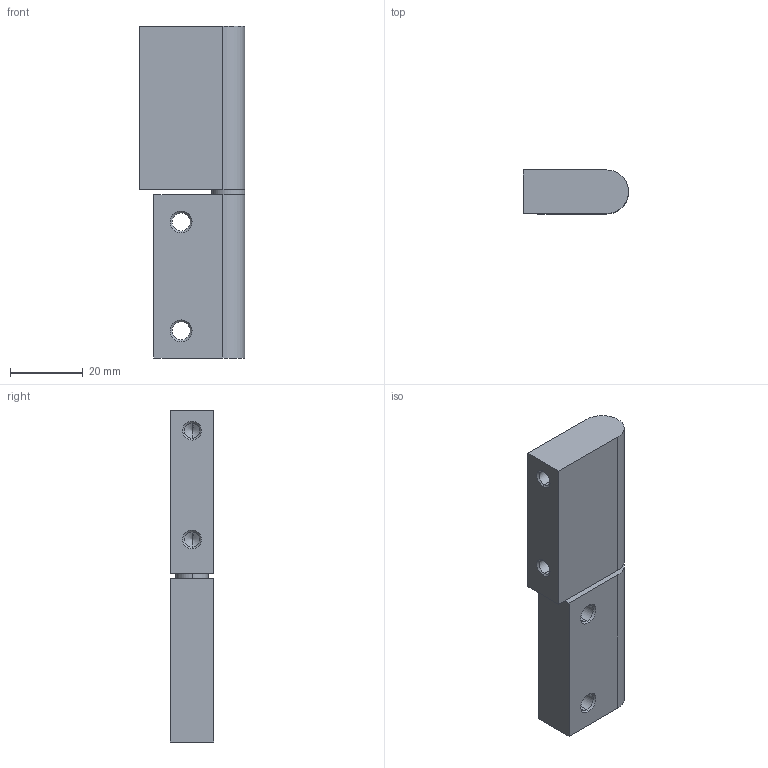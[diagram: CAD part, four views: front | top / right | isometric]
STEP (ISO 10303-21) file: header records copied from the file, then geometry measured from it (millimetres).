
FILE_DESCRIPTION (( 'STEP AP214' ), '1' );
FILE_NAME ('3.ST49.001.STEP', '2010-02-18T18:53:40', ( 'Rak' ), ( 'ROZTOCZE' ), 'SwSTEP 2.0', 'SolidWorks 2004231', '' );
FILE_SCHEMA (( 'AUTOMOTIVE_DESIGN' ));
Length unit declared in the file: millimetre
Products named in the file (5): 3.ST49.001.01_Domyœlna; 3.ST49.001.04_Domyœlna; 3.ST49.001.03_Domyœlna; 3.ST49.001.02_Domyœlna; 3.ST49.001
Assembly tree (4 placements, depth 2):
  3.ST49.001
    3.ST49.001.04_Domyœlna
    3.ST49.001.02_Domyœlna
    3.ST49.001.01_Domyœlna
    3.ST49.001.03_Domyœlna
Bounding box: 29 x 12 x 91.5 mm (x, y, z)
Volume: 26815.3 mm3; surface area: 10927.1 mm2
Topology: 4 solids, 4 shells, 238 faces, 557 edges, 358 vertices
Faces by surface type: plane 154, cylinder 56, cone 28
Entity records: 6973 total; most frequent: DIRECTION 1241, CARTESIAN_POINT 1152, ORIENTED_EDGE 1098, EDGE_CURVE 549, AXIS2_PLACEMENT_3D 447, VERTEX_POINT 358, VECTOR 347, LINE 347
